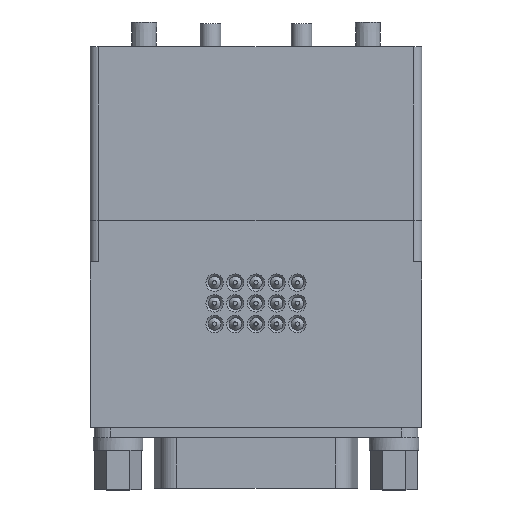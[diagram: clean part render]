
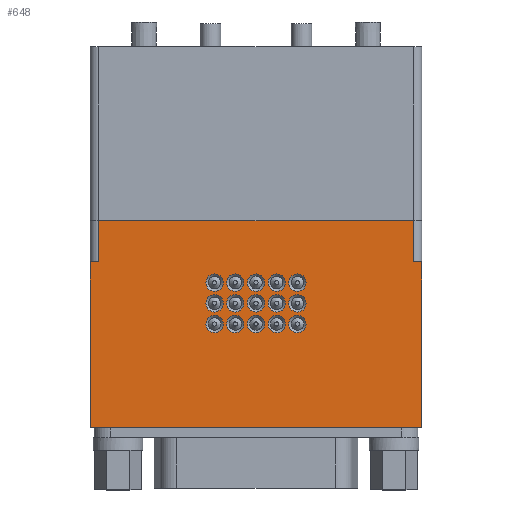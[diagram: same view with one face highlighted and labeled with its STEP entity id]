
A CAD part, top view. The second image highlights one B-rep face of the part: STEP entity #648.
In plain terms, the highlighted planar face has unit normal (0, 0, 1).
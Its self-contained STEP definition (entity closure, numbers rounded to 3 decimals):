
#648=ADVANCED_FACE('',(#1495,#1496,#1497,#1498,#1499,#1500,#1501,#1502,#1503,#1504,#1505,#1506,#1507,#1508,#1509,#1510),#1511,.T.);
#1495=FACE_BOUND('',#2588,.T.);
#1496=FACE_BOUND('',#2589,.T.);
#1497=FACE_BOUND('',#2590,.T.);
#1498=FACE_BOUND('',#2591,.T.);
#1499=FACE_BOUND('',#2592,.T.);
#1500=FACE_BOUND('',#2593,.T.);
#1501=FACE_BOUND('',#2594,.T.);
#1502=FACE_BOUND('',#2595,.T.);
#1503=FACE_BOUND('',#2596,.T.);
#1504=FACE_BOUND('',#2597,.T.);
#1505=FACE_BOUND('',#2598,.T.);
#1506=FACE_BOUND('',#2599,.T.);
#1507=FACE_BOUND('',#2600,.T.);
#1508=FACE_BOUND('',#2601,.T.);
#1509=FACE_BOUND('',#2602,.T.);
#1510=FACE_OUTER_BOUND('',#2603,.T.);
#1511=PLANE('',#2604);
#2588=EDGE_LOOP('',(#4362));
#2589=EDGE_LOOP('',(#4363));
#2590=EDGE_LOOP('',(#4364));
#2591=EDGE_LOOP('',(#4365));
#2592=EDGE_LOOP('',(#4366));
#2593=EDGE_LOOP('',(#4367));
#2594=EDGE_LOOP('',(#4368));
#2595=EDGE_LOOP('',(#4369));
#2596=EDGE_LOOP('',(#4370));
#2597=EDGE_LOOP('',(#4371));
#2598=EDGE_LOOP('',(#4372));
#2599=EDGE_LOOP('',(#4373));
#2600=EDGE_LOOP('',(#4374));
#2601=EDGE_LOOP('',(#4375));
#2602=EDGE_LOOP('',(#4376));
#2603=EDGE_LOOP('',(#4377,#4378,#4379,#4380,#4381,#4382,#4383,#4384));
#2604=AXIS2_PLACEMENT_3D('',#4385,#4386,#4387);
#4362=ORIENTED_EDGE('',*,*,#6074,.T.);
#4363=ORIENTED_EDGE('',*,*,#6075,.T.);
#4364=ORIENTED_EDGE('',*,*,#6076,.T.);
#4365=ORIENTED_EDGE('',*,*,#6077,.T.);
#4366=ORIENTED_EDGE('',*,*,#6078,.T.);
#4367=ORIENTED_EDGE('',*,*,#6079,.T.);
#4368=ORIENTED_EDGE('',*,*,#6080,.T.);
#4369=ORIENTED_EDGE('',*,*,#6081,.T.);
#4370=ORIENTED_EDGE('',*,*,#6082,.T.);
#4371=ORIENTED_EDGE('',*,*,#6083,.T.);
#4372=ORIENTED_EDGE('',*,*,#6084,.T.);
#4373=ORIENTED_EDGE('',*,*,#6085,.T.);
#4374=ORIENTED_EDGE('',*,*,#6086,.T.);
#4375=ORIENTED_EDGE('',*,*,#6087,.T.);
#4376=ORIENTED_EDGE('',*,*,#6088,.T.);
#4377=ORIENTED_EDGE('',*,*,#6014,.T.);
#4378=ORIENTED_EDGE('',*,*,#6072,.T.);
#4379=ORIENTED_EDGE('',*,*,#5919,.T.);
#4380=ORIENTED_EDGE('',*,*,#5838,.T.);
#4381=ORIENTED_EDGE('',*,*,#5908,.T.);
#4382=ORIENTED_EDGE('',*,*,#5705,.T.);
#4383=ORIENTED_EDGE('',*,*,#6019,.T.);
#4384=ORIENTED_EDGE('',*,*,#6089,.T.);
#4385=CARTESIAN_POINT('',(20.0,-26.0,22.0));
#4386=DIRECTION('',(0.0,0.0,1.0));
#4387=DIRECTION('',(1.0,0.0,0.0));
#5705=EDGE_CURVE('',#6691,#6692,#6693,.T.);
#5838=EDGE_CURVE('',#6894,#6892,#6895,.T.);
#5908=EDGE_CURVE('',#6892,#6691,#7006,.T.);
#5919=EDGE_CURVE('',#7018,#6894,#7021,.T.);
#6014=EDGE_CURVE('',#7160,#7165,#7167,.T.);
#6019=EDGE_CURVE('',#6692,#7173,#7175,.T.);
#6072=EDGE_CURVE('',#7165,#7018,#7248,.T.);
#6074=EDGE_CURVE('',#7250,#7250,#7251,.T.);
#6075=EDGE_CURVE('',#7252,#7252,#7253,.T.);
#6076=EDGE_CURVE('',#7254,#7254,#7255,.T.);
#6077=EDGE_CURVE('',#7256,#7256,#7257,.T.);
#6078=EDGE_CURVE('',#7258,#7258,#7259,.T.);
#6079=EDGE_CURVE('',#7260,#7260,#7261,.T.);
#6080=EDGE_CURVE('',#7262,#7262,#7263,.T.);
#6081=EDGE_CURVE('',#7264,#7264,#7265,.T.);
#6082=EDGE_CURVE('',#7266,#7266,#7267,.T.);
#6083=EDGE_CURVE('',#7268,#7268,#7269,.T.);
#6084=EDGE_CURVE('',#7270,#7270,#7271,.T.);
#6085=EDGE_CURVE('',#7272,#7272,#7273,.T.);
#6086=EDGE_CURVE('',#7274,#7274,#7275,.T.);
#6087=EDGE_CURVE('',#7276,#7276,#7277,.T.);
#6088=EDGE_CURVE('',#7278,#7278,#7279,.T.);
#6089=EDGE_CURVE('',#7173,#7160,#7280,.T.);
#6691=VERTEX_POINT('',#8104);
#6692=VERTEX_POINT('',#8105);
#6693=LINE('',#8106,#8107);
#6892=VERTEX_POINT('',#8375);
#6894=VERTEX_POINT('',#8377);
#6895=LINE('',#8378,#8379);
#7006=LINE('',#8523,#8524);
#7018=VERTEX_POINT('',#8538);
#7021=LINE('',#8542,#8543);
#7160=VERTEX_POINT('',#8688);
#7165=VERTEX_POINT('',#8696);
#7167=LINE('',#8699,#8700);
#7173=VERTEX_POINT('',#8708);
#7175=LINE('',#8711,#8712);
#7248=LINE('',#8812,#8813);
#7250=VERTEX_POINT('',#8815);
#7251=CIRCLE('',#8816,1.05);
#7252=VERTEX_POINT('',#8817);
#7253=CIRCLE('',#8818,1.05);
#7254=VERTEX_POINT('',#8819);
#7255=CIRCLE('',#8820,1.05);
#7256=VERTEX_POINT('',#8821);
#7257=CIRCLE('',#8822,1.05);
#7258=VERTEX_POINT('',#8823);
#7259=CIRCLE('',#8824,1.05);
#7260=VERTEX_POINT('',#8825);
#7261=CIRCLE('',#8826,1.05);
#7262=VERTEX_POINT('',#8827);
#7263=CIRCLE('',#8828,1.05);
#7264=VERTEX_POINT('',#8829);
#7265=CIRCLE('',#8830,1.05);
#7266=VERTEX_POINT('',#8831);
#7267=CIRCLE('',#8832,1.05);
#7268=VERTEX_POINT('',#8833);
#7269=CIRCLE('',#8834,1.05);
#7270=VERTEX_POINT('',#8835);
#7271=CIRCLE('',#8836,1.05);
#7272=VERTEX_POINT('',#8837);
#7273=CIRCLE('',#8838,1.05);
#7274=VERTEX_POINT('',#8839);
#7275=CIRCLE('',#8840,1.05);
#7276=VERTEX_POINT('',#8841);
#7277=CIRCLE('',#8842,1.05);
#7278=VERTEX_POINT('',#8843);
#7279=CIRCLE('',#8844,1.05);
#7280=LINE('',#8845,#8846);
#8104=CARTESIAN_POINT('',(-19.0,-26.0,22.0));
#8105=CARTESIAN_POINT('',(-20.0,-26.0,22.0));
#8106=CARTESIAN_POINT('',(20.0,-26.0,22.0));
#8107=VECTOR('',#9603,1.0);
#8375=CARTESIAN_POINT('',(-19.0,-21.0,22.0));
#8377=CARTESIAN_POINT('',(19.0,-21.0,22.0));
#8378=CARTESIAN_POINT('',(20.0,-21.0,22.0));
#8379=VECTOR('',#9745,1.0);
#8523=CARTESIAN_POINT('',(-19.0,-26.0,22.0));
#8524=VECTOR('',#9839,1.0);
#8538=CARTESIAN_POINT('',(19.0,-26.0,22.0));
#8542=CARTESIAN_POINT('',(19.0,-21.0,22.0));
#8543=VECTOR('',#9852,1.0);
#8688=CARTESIAN_POINT('',(20.0,-46.0,22.0));
#8696=CARTESIAN_POINT('',(20.0,-26.0,22.0));
#8699=CARTESIAN_POINT('',(20.0,-46.0,22.0));
#8700=VECTOR('',#9989,1.0);
#8708=CARTESIAN_POINT('',(-20.0,-46.0,22.0));
#8711=CARTESIAN_POINT('',(-20.0,-26.0,22.0));
#8712=VECTOR('',#9993,1.0);
#8812=CARTESIAN_POINT('',(20.0,-26.0,22.0));
#8813=VECTOR('',#10039,1.0);
#8815=CARTESIAN_POINT('',(-3.95,-28.5,22.0));
#8816=AXIS2_PLACEMENT_3D('',#10040,#10041,#10042);
#8817=CARTESIAN_POINT('',(-3.95,-31.0,22.0));
#8818=AXIS2_PLACEMENT_3D('',#10043,#10044,#10045);
#8819=CARTESIAN_POINT('',(-3.95,-33.5,22.0));
#8820=AXIS2_PLACEMENT_3D('',#10046,#10047,#10048);
#8821=CARTESIAN_POINT('',(-1.45,-33.5,22.0));
#8822=AXIS2_PLACEMENT_3D('',#10049,#10050,#10051);
#8823=CARTESIAN_POINT('',(-1.45,-31.0,22.0));
#8824=AXIS2_PLACEMENT_3D('',#10052,#10053,#10054);
#8825=CARTESIAN_POINT('',(-1.45,-28.5,22.0));
#8826=AXIS2_PLACEMENT_3D('',#10055,#10056,#10057);
#8827=CARTESIAN_POINT('',(1.05,-28.5,22.0));
#8828=AXIS2_PLACEMENT_3D('',#10058,#10059,#10060);
#8829=CARTESIAN_POINT('',(1.05,-31.0,22.0));
#8830=AXIS2_PLACEMENT_3D('',#10061,#10062,#10063);
#8831=CARTESIAN_POINT('',(1.05,-33.5,22.0));
#8832=AXIS2_PLACEMENT_3D('',#10064,#10065,#10066);
#8833=CARTESIAN_POINT('',(3.55,-33.5,22.0));
#8834=AXIS2_PLACEMENT_3D('',#10067,#10068,#10069);
#8835=CARTESIAN_POINT('',(3.55,-31.0,22.0));
#8836=AXIS2_PLACEMENT_3D('',#10070,#10071,#10072);
#8837=CARTESIAN_POINT('',(3.55,-28.5,22.0));
#8838=AXIS2_PLACEMENT_3D('',#10073,#10074,#10075);
#8839=CARTESIAN_POINT('',(6.05,-28.5,22.0));
#8840=AXIS2_PLACEMENT_3D('',#10076,#10077,#10078);
#8841=CARTESIAN_POINT('',(6.05,-31.0,22.0));
#8842=AXIS2_PLACEMENT_3D('',#10079,#10080,#10081);
#8843=CARTESIAN_POINT('',(6.05,-33.5,22.0));
#8844=AXIS2_PLACEMENT_3D('',#10082,#10083,#10084);
#8845=CARTESIAN_POINT('',(-20.0,-46.0,22.0));
#8846=VECTOR('',#10085,1.0);
#9603=DIRECTION('',(-1.0,0.0,0.0));
#9745=DIRECTION('',(-1.0,0.0,0.0));
#9839=DIRECTION('',(0.0,-1.0,0.0));
#9852=DIRECTION('',(0.0,1.0,0.0));
#9989=DIRECTION('',(0.0,1.0,0.0));
#9993=DIRECTION('',(0.0,-1.0,0.0));
#10039=DIRECTION('',(-1.0,0.0,0.0));
#10040=CARTESIAN_POINT('',(-5.0,-28.5,22.0));
#10041=DIRECTION('',(0.0,0.0,-1.0));
#10042=DIRECTION('',(1.0,0.0,0.0));
#10043=CARTESIAN_POINT('',(-5.0,-31.0,22.0));
#10044=DIRECTION('',(0.0,0.0,-1.0));
#10045=DIRECTION('',(1.0,0.0,0.0));
#10046=CARTESIAN_POINT('',(-5.0,-33.5,22.0));
#10047=DIRECTION('',(0.0,0.0,-1.0));
#10048=DIRECTION('',(1.0,0.0,0.0));
#10049=CARTESIAN_POINT('',(-2.5,-33.5,22.0));
#10050=DIRECTION('',(0.0,0.0,-1.0));
#10051=DIRECTION('',(1.0,0.0,0.0));
#10052=CARTESIAN_POINT('',(-2.5,-31.0,22.0));
#10053=DIRECTION('',(0.0,0.0,-1.0));
#10054=DIRECTION('',(1.0,0.0,0.0));
#10055=CARTESIAN_POINT('',(-2.5,-28.5,22.0));
#10056=DIRECTION('',(0.0,0.0,-1.0));
#10057=DIRECTION('',(1.0,0.0,0.0));
#10058=CARTESIAN_POINT('',(0.,-28.5,22.0));
#10059=DIRECTION('',(0.0,0.0,-1.0));
#10060=DIRECTION('',(1.0,0.0,0.0));
#10061=CARTESIAN_POINT('',(0.,-31.0,22.0));
#10062=DIRECTION('',(0.0,0.0,-1.0));
#10063=DIRECTION('',(1.0,0.0,0.0));
#10064=CARTESIAN_POINT('',(0.,-33.5,22.0));
#10065=DIRECTION('',(0.0,0.0,-1.0));
#10066=DIRECTION('',(1.0,0.0,0.0));
#10067=CARTESIAN_POINT('',(2.5,-33.5,22.0));
#10068=DIRECTION('',(0.0,0.0,-1.0));
#10069=DIRECTION('',(1.0,0.0,0.0));
#10070=CARTESIAN_POINT('',(2.5,-31.0,22.0));
#10071=DIRECTION('',(0.0,0.0,-1.0));
#10072=DIRECTION('',(1.0,0.0,0.0));
#10073=CARTESIAN_POINT('',(2.5,-28.5,22.0));
#10074=DIRECTION('',(0.0,0.0,-1.0));
#10075=DIRECTION('',(1.0,0.0,0.0));
#10076=CARTESIAN_POINT('',(5.0,-28.5,22.0));
#10077=DIRECTION('',(0.0,0.0,-1.0));
#10078=DIRECTION('',(1.0,0.0,0.0));
#10079=CARTESIAN_POINT('',(5.0,-31.0,22.0));
#10080=DIRECTION('',(0.0,0.0,-1.0));
#10081=DIRECTION('',(1.0,0.0,0.0));
#10082=CARTESIAN_POINT('',(5.0,-33.5,22.0));
#10083=DIRECTION('',(0.0,0.0,-1.0));
#10084=DIRECTION('',(1.0,0.0,0.0));
#10085=DIRECTION('',(1.0,0.0,0.0));
